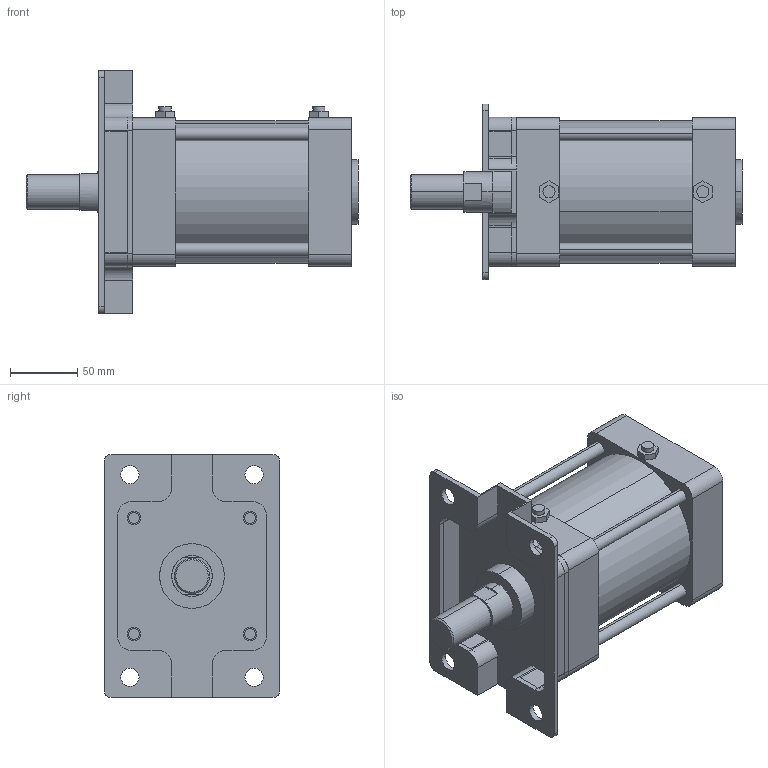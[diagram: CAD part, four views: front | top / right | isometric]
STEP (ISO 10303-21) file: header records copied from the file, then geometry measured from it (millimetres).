
FILE_DESCRIPTION (( 'STEP AP203' ), '1' );
FILE_NAME ('KG2-100-50-A.STEP', '2016-04-01T08:22:06', ( '' ), ( '' ), 'SwSTEP 2.0', 'SolidWorks 2014', '' );
FILE_SCHEMA (( 'CONFIG_CONTROL_DESIGN' ));
Length unit declared in the file: millimetre
Products named in the file (7): KG2-100-After; KGLH2-100-50; KG2-100-50-A; K-100-AB
Assembly tree (16 placements, depth 2):
  KG2-100-50-A
    KG2-100-After
    KGLH2-100-50
    (unnamed)
    (unnamed)  x4
    (unnamed)  x8
    K-100-AB
Bounding box: 246 x 130 x 180 mm (x, y, z)
Volume: 1583032.3 mm3; surface area: 271789.1 mm2
Topology: 16 solids, 16 shells, 373 faces, 915 edges, 590 vertices
Faces by surface type: plane 162, cylinder 153, torus 32, cone 26
Entity records: 9779 total; most frequent: CARTESIAN_POINT 1587, DIRECTION 1583, ORIENTED_EDGE 1450, EDGE_CURVE 725, AXIS2_PLACEMENT_3D 578, VERTEX_POINT 480, VECTOR 427, LINE 427
